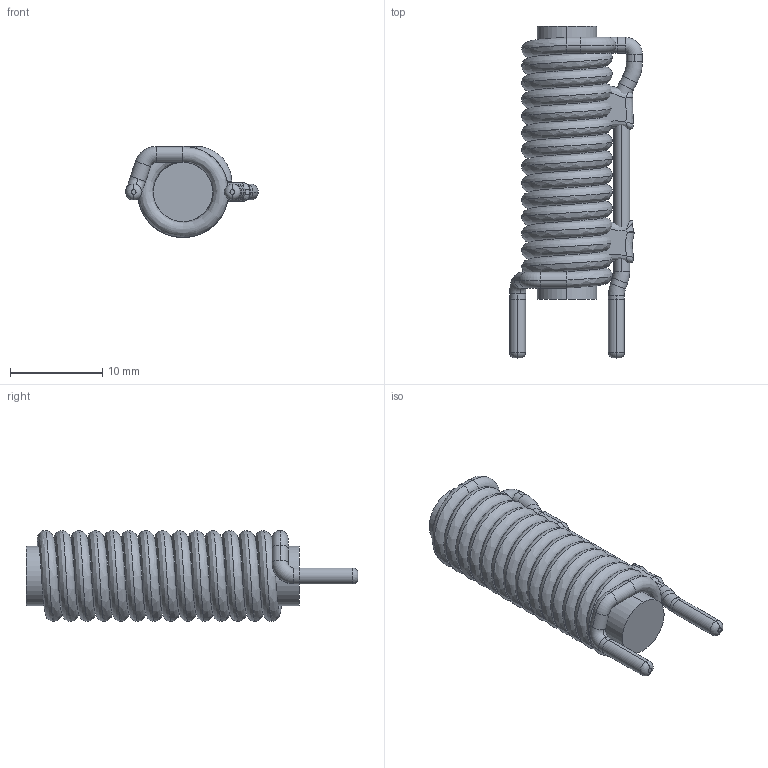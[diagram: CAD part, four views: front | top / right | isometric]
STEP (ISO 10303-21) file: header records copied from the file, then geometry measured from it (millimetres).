
FILE_DESCRIPTION (( 'STEP AP203' ), '1' );
FILE_NAME ('PV-472-20.STEP', '2020-10-06T09:28:02', ( 'Windows User' ), ( '' ), 'SwSTEP 2.0', 'SolidWorks 2015', '' );
FILE_SCHEMA (( 'CONFIG_CONTROL_DESIGN' ));
Length unit declared in the file: inch
Products named in the file (3): PV-472-20 - COIL; PV-472-20; PV-472-20 - CORE
Assembly tree (2 placements, depth 2):
  PV-472-20
    PV-472-20 - CORE
    PV-472-20 - COIL
Bounding box: 14.38 x 35.94 x 9.86 mm (x, y, z)
Volume: 1999.3 mm3; surface area: 3070.8 mm2
Topology: 8 solids, 8 shells, 100 faces, 228 edges, 132 vertices
Faces by surface type: bspline 32, cylinder 28, torus 22, plane 18
Entity records: 15240 total; most frequent: CARTESIAN_POINT 12952, ORIENTED_EDGE 432, DIRECTION 386, EDGE_CURVE 216, AXIS2_PLACEMENT_3D 175, VERTEX_POINT 132, CIRCLE 102, EDGE_LOOP 100
